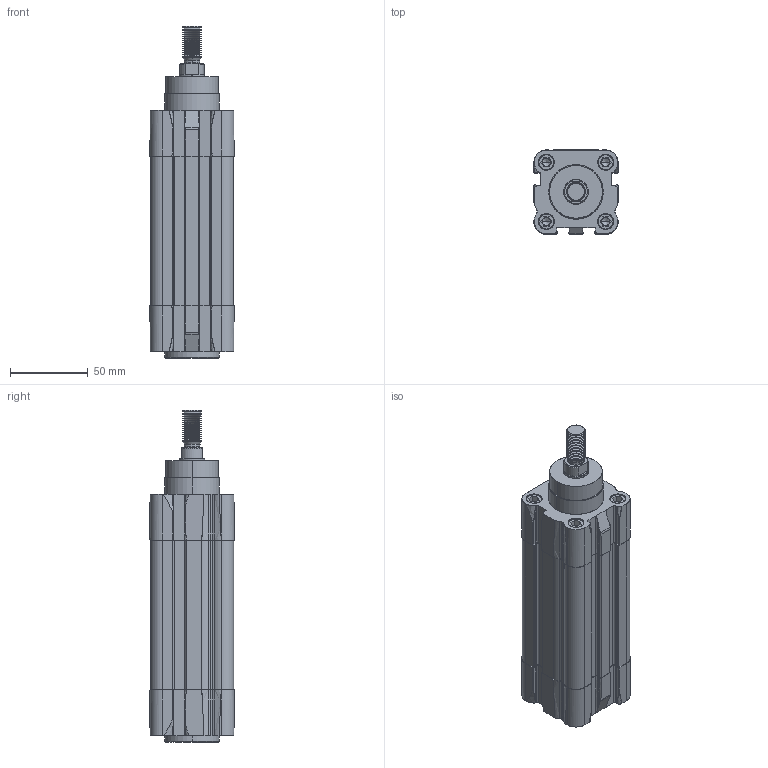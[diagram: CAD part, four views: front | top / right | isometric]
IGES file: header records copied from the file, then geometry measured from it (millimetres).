
Start section: SolidWorks IGES file using analytic representation for surfaces
Global section: file name: c:\CATALO3D\IGS\TTX40.0050.IGS; native system: SolidWorks 2005 by SolidWorks Corporation; preprocessor: SolidWorks 2005 by SolidWorks Corporation; author: tania; date: 051025.123725; units: millimetre
Bounding box: 54 x 54.15 x 213 mm (x, y, z)
Surface area: 106736.9 mm2 (no closed solid volume)
Topology: 0 solids, 0 shells, 1274 faces, 26822 edges, 32764 vertices
Faces by surface type: revolution 822, bspline 452
